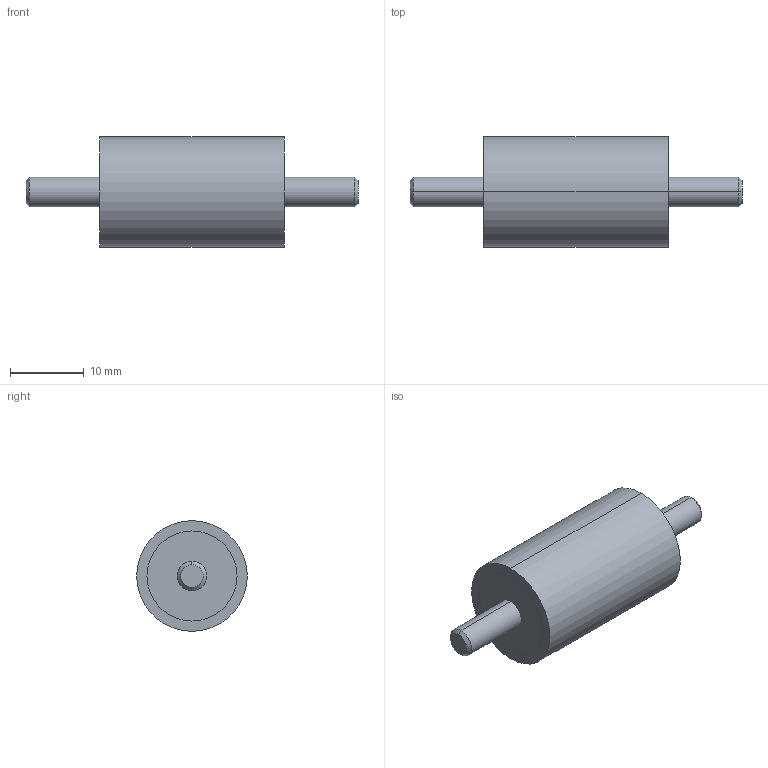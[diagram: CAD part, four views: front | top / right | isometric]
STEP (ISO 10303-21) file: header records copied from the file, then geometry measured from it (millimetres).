
FILE_DESCRIPTION (( 'STEP AP214' ), '1' );
FILE_NAME ('351-15-25-M4-SS-55.step', '2025-07-23T09:52:38', ( '' ), ( '' ), 'SwSTEP 2.0', 'SolidWorks 2022', '' );
FILE_SCHEMA (( 'AUTOMOTIVE_DESIGN' ));
Length unit declared in the file: millimetre
Products named in the file (1): 351-15-25-M4-SS-55
Bounding box: 45 x 15 x 15 mm (x, y, z)
Volume: 4664.8 mm3; surface area: 1776.7 mm2
Topology: 1 solids, 1 shells, 20 faces, 38 edges, 24 vertices
Faces by surface type: cylinder 10, plane 6, cone 4
Entity records: 636 total; most frequent: DIRECTION 104, CARTESIAN_POINT 83, ORIENTED_EDGE 76, AXIS2_PLACEMENT_3D 45, EDGE_CURVE 38, EDGE_LOOP 24, VERTEX_POINT 24, CIRCLE 24
